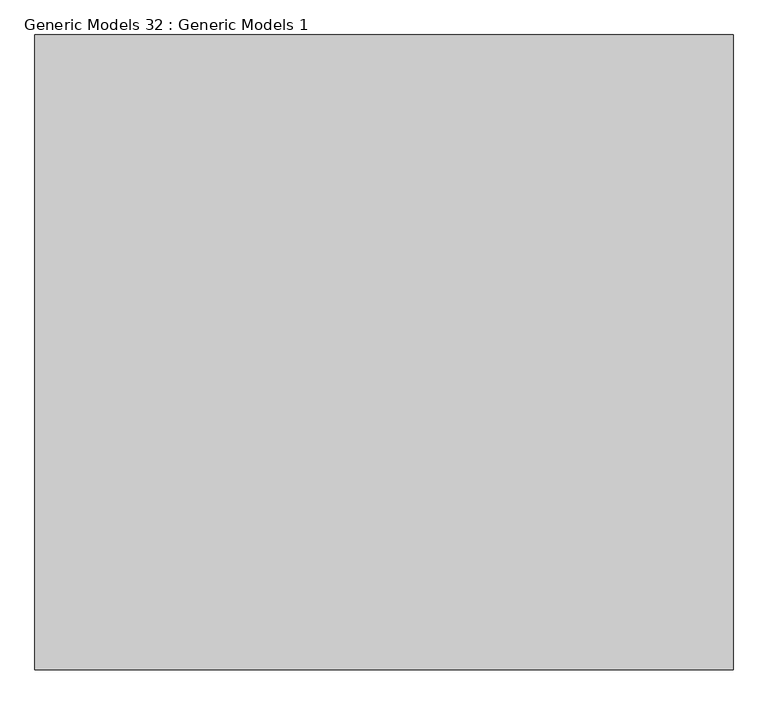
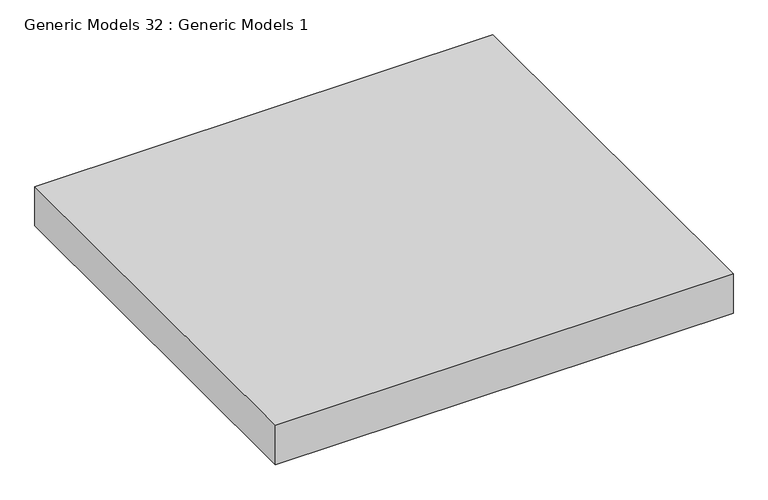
"""IFC4 building model written with IfcOpenShell, lengths in millimetres: proxy geometry, Generic Models 32 : Generic Models 1."""

from ifc_helpers import new_model, si_unit, origin, origin_with_axes, place, context, project, spatial, polyline, outline, extrude, source, transform, mapped, element, save


def generic_models_32_generic_models_1_22afaafb(model_context):
    return source(origin(), model_context, "Body", "SweptSolid", [
        extrude(outline(polyline([(6237.1851171, -4286.5772826), (6237.1851171, -3286.5772826), (7337.1851171, -3286.5772826), (7337.1851171, -4286.5772826), (6237.1851171, -4286.5772826)])), origin_with_axes(), (0.0, 0.0, 1.0), 100.0),
    ])


if __name__ == "__main__":
    model = new_model("IFC4")
    model_context = context("Model", 3, world=origin())
    ifc_project = project(units=[si_unit("LENGTHUNIT", "METRE", prefix="MILLI")], contexts=[model_context])
    site = spatial("IfcSite", under=ifc_project)
    building = spatial("IfcBuilding", under=site)
    placement = place(None, origin())
    generic_models_32_generic_models_1_shape = generic_models_32_generic_models_1_22afaafb(model_context)
    element("IfcBuildingElementProxy", 1, Name="Generic Models 32 : Generic Models 1", ObjectType="Generic Models 32 : Generic Models 1", at=placement, inside=building, context=model_context, shape_type="MappedRepresentation", body=[
        mapped(generic_models_32_generic_models_1_shape, transform((0.0, 0.0, 0.0), x_axis=(1.0, 0.0, 0.0), y_axis=(0.0, 1.0, 0.0), z_axis=(0.0, 0.0, 1.0))),
    ])
    save(model, "model.ifc")
